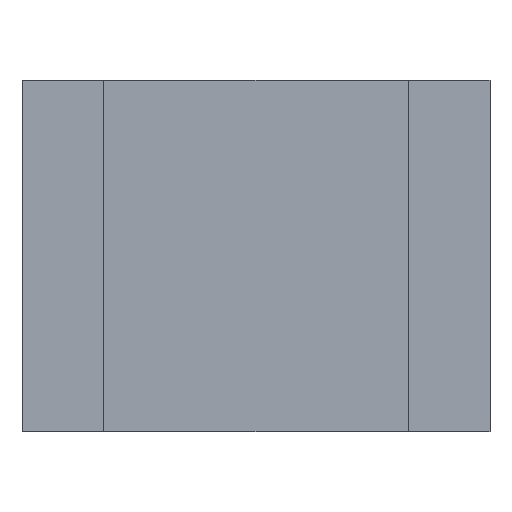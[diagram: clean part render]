
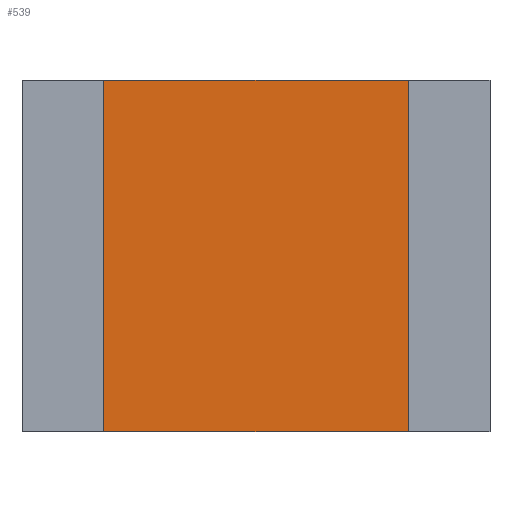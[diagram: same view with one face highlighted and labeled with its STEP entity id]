
A CAD part, front view. The second image highlights one B-rep face of the part: STEP entity #539.
In plain terms, the highlighted planar face has unit normal (0, -1, 0).
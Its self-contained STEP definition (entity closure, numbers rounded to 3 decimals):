
#32 = PLANE('',#33);
#33 = AXIS2_PLACEMENT_3D('',#34,#35,#36);
#34 = CARTESIAN_POINT('',(0.,0.25,-0.75));
#35 = DIRECTION('',(0.,0.,-1.));
#36 = DIRECTION('',(0.,1.,0.));
#136 = VERTEX_POINT('',#137);
#137 = CARTESIAN_POINT('',(0.65,0.12,-0.75));
#158 = EDGE_CURVE('',#136,#159,#161,.T.);
#159 = VERTEX_POINT('',#160);
#160 = CARTESIAN_POINT('',(-0.65,0.12,-0.75));
#161 = SURFACE_CURVE('',#162,(#166,#173),.PCURVE_S1.);
#162 = LINE('',#163,#164);
#163 = CARTESIAN_POINT('',(0.88,0.12,-0.75));
#164 = VECTOR('',#165,1.);
#165 = DIRECTION('',(-1.,0.,0.));
#166 = PCURVE('',#32,#167);
#167 = DEFINITIONAL_REPRESENTATION('',(#168),#172);
#168 = LINE('',#169,#170);
#169 = CARTESIAN_POINT('',(-0.13,0.88));
#170 = VECTOR('',#171,1.);
#171 = DIRECTION('',(0.,-1.));
#172 = ( GEOMETRIC_REPRESENTATION_CONTEXT(2) 
PARAMETRIC_REPRESENTATION_CONTEXT() REPRESENTATION_CONTEXT('2D SPACE',''
  ) );
#173 = PCURVE('',#174,#179);
#174 = PLANE('',#175);
#175 = AXIS2_PLACEMENT_3D('',#176,#177,#178);
#176 = CARTESIAN_POINT('',(0.88,0.12,-0.75));
#177 = DIRECTION('',(0.,-1.,0.));
#178 = DIRECTION('',(-1.,0.,0.));
#179 = DEFINITIONAL_REPRESENTATION('',(#180),#184);
#180 = LINE('',#181,#182);
#181 = CARTESIAN_POINT('',(0.,-0.));
#182 = VECTOR('',#183,1.);
#183 = DIRECTION('',(1.,0.));
#184 = ( GEOMETRIC_REPRESENTATION_CONTEXT(2) 
PARAMETRIC_REPRESENTATION_CONTEXT() REPRESENTATION_CONTEXT('2D SPACE',''
  ) );
#333 = PLANE('',#334);
#334 = AXIS2_PLACEMENT_3D('',#335,#336,#337);
#335 = CARTESIAN_POINT('',(-0.65,0.,-0.75));
#336 = DIRECTION('',(-1.,0.,0.));
#337 = DIRECTION('',(0.,1.,0.));
#524 = PLANE('',#525);
#525 = AXIS2_PLACEMENT_3D('',#526,#527,#528);
#526 = CARTESIAN_POINT('',(0.65,0.,-0.75));
#527 = DIRECTION('',(-1.,0.,0.));
#528 = DIRECTION('',(0.,1.,0.));
#539 = ADVANCED_FACE('',(#540),#174,.T.);
#540 = FACE_BOUND('',#541,.T.);
#541 = EDGE_LOOP('',(#542,#543,#566,#594));
#542 = ORIENTED_EDGE('',*,*,#158,.F.);
#543 = ORIENTED_EDGE('',*,*,#544,.T.);
#544 = EDGE_CURVE('',#136,#545,#547,.T.);
#545 = VERTEX_POINT('',#546);
#546 = CARTESIAN_POINT('',(0.65,0.12,0.75));
#547 = SURFACE_CURVE('',#548,(#552,#559),.PCURVE_S1.);
#548 = LINE('',#549,#550);
#549 = CARTESIAN_POINT('',(0.65,0.12,-0.75));
#550 = VECTOR('',#551,1.);
#551 = DIRECTION('',(0.,0.,1.));
#552 = PCURVE('',#174,#553);
#553 = DEFINITIONAL_REPRESENTATION('',(#554),#558);
#554 = LINE('',#555,#556);
#555 = CARTESIAN_POINT('',(0.23,0.));
#556 = VECTOR('',#557,1.);
#557 = DIRECTION('',(0.,-1.));
#558 = ( GEOMETRIC_REPRESENTATION_CONTEXT(2) 
PARAMETRIC_REPRESENTATION_CONTEXT() REPRESENTATION_CONTEXT('2D SPACE',''
  ) );
#559 = PCURVE('',#524,#560);
#560 = DEFINITIONAL_REPRESENTATION('',(#561),#565);
#561 = LINE('',#562,#563);
#562 = CARTESIAN_POINT('',(0.12,0.));
#563 = VECTOR('',#564,1.);
#564 = DIRECTION('',(0.,-1.));
#565 = ( GEOMETRIC_REPRESENTATION_CONTEXT(2) 
PARAMETRIC_REPRESENTATION_CONTEXT() REPRESENTATION_CONTEXT('2D SPACE',''
  ) );
#566 = ORIENTED_EDGE('',*,*,#567,.T.);
#567 = EDGE_CURVE('',#545,#568,#570,.T.);
#568 = VERTEX_POINT('',#569);
#569 = CARTESIAN_POINT('',(-0.65,0.12,0.75));
#570 = SURFACE_CURVE('',#571,(#575,#582),.PCURVE_S1.);
#571 = LINE('',#572,#573);
#572 = CARTESIAN_POINT('',(0.88,0.12,0.75));
#573 = VECTOR('',#574,1.);
#574 = DIRECTION('',(-1.,0.,0.));
#575 = PCURVE('',#174,#576);
#576 = DEFINITIONAL_REPRESENTATION('',(#577),#581);
#577 = LINE('',#578,#579);
#578 = CARTESIAN_POINT('',(0.,-1.5));
#579 = VECTOR('',#580,1.);
#580 = DIRECTION('',(1.,0.));
#581 = ( GEOMETRIC_REPRESENTATION_CONTEXT(2) 
PARAMETRIC_REPRESENTATION_CONTEXT() REPRESENTATION_CONTEXT('2D SPACE',''
  ) );
#582 = PCURVE('',#583,#588);
#583 = PLANE('',#584);
#584 = AXIS2_PLACEMENT_3D('',#585,#586,#587);
#585 = CARTESIAN_POINT('',(0.,0.25,0.75));
#586 = DIRECTION('',(0.,0.,-1.));
#587 = DIRECTION('',(0.,1.,0.));
#588 = DEFINITIONAL_REPRESENTATION('',(#589),#593);
#589 = LINE('',#590,#591);
#590 = CARTESIAN_POINT('',(-0.13,0.88));
#591 = VECTOR('',#592,1.);
#592 = DIRECTION('',(0.,-1.));
#593 = ( GEOMETRIC_REPRESENTATION_CONTEXT(2) 
PARAMETRIC_REPRESENTATION_CONTEXT() REPRESENTATION_CONTEXT('2D SPACE',''
  ) );
#594 = ORIENTED_EDGE('',*,*,#595,.F.);
#595 = EDGE_CURVE('',#159,#568,#596,.T.);
#596 = SURFACE_CURVE('',#597,(#601,#608),.PCURVE_S1.);
#597 = LINE('',#598,#599);
#598 = CARTESIAN_POINT('',(-0.65,0.12,-0.75));
#599 = VECTOR('',#600,1.);
#600 = DIRECTION('',(0.,0.,1.));
#601 = PCURVE('',#174,#602);
#602 = DEFINITIONAL_REPRESENTATION('',(#603),#607);
#603 = LINE('',#604,#605);
#604 = CARTESIAN_POINT('',(1.53,0.));
#605 = VECTOR('',#606,1.);
#606 = DIRECTION('',(0.,-1.));
#607 = ( GEOMETRIC_REPRESENTATION_CONTEXT(2) 
PARAMETRIC_REPRESENTATION_CONTEXT() REPRESENTATION_CONTEXT('2D SPACE',''
  ) );
#608 = PCURVE('',#333,#609);
#609 = DEFINITIONAL_REPRESENTATION('',(#610),#614);
#610 = LINE('',#611,#612);
#611 = CARTESIAN_POINT('',(0.12,0.));
#612 = VECTOR('',#613,1.);
#613 = DIRECTION('',(0.,-1.));
#614 = ( GEOMETRIC_REPRESENTATION_CONTEXT(2) 
PARAMETRIC_REPRESENTATION_CONTEXT() REPRESENTATION_CONTEXT('2D SPACE',''
  ) );
